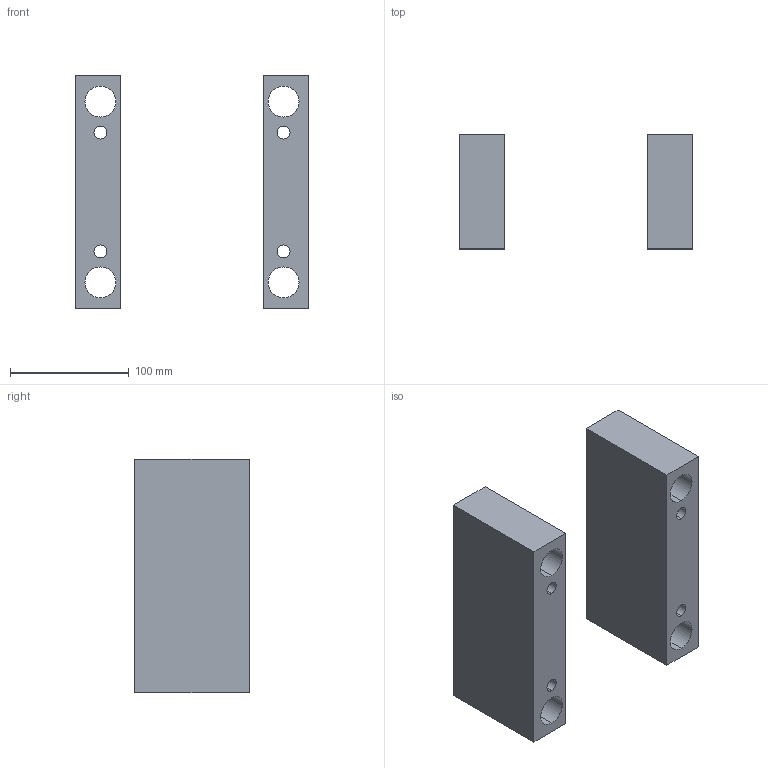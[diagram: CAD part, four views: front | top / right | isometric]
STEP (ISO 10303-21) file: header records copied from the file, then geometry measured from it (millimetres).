
FILE_DESCRIPTION (( 'STEP AP214' ), '1' );
FILE_NAME ('L50_196x196x96.STEP', '2018-10-05T18:57:47', ( '' ), ( '' ), 'SwSTEP 2.0', 'SolidWorks 2014', '' );
FILE_SCHEMA (( 'AUTOMOTIVE_DESIGN' ));
Length unit declared in the file: millimetre
Products named in the file (1): L50_196x196x96
Bounding box: 196 x 96 x 196 mm (x, y, z)
Volume: 1189646.5 mm3; surface area: 159276 mm2
Topology: 2 solids, 2 shells, 28 faces, 72 edges, 48 vertices
Faces by surface type: cylinder 16, plane 12
Entity records: 943 total; most frequent: DIRECTION 162, CARTESIAN_POINT 149, ORIENTED_EDGE 144, EDGE_CURVE 72, AXIS2_PLACEMENT_3D 61, VERTEX_POINT 48, EDGE_LOOP 44, LINE 40
